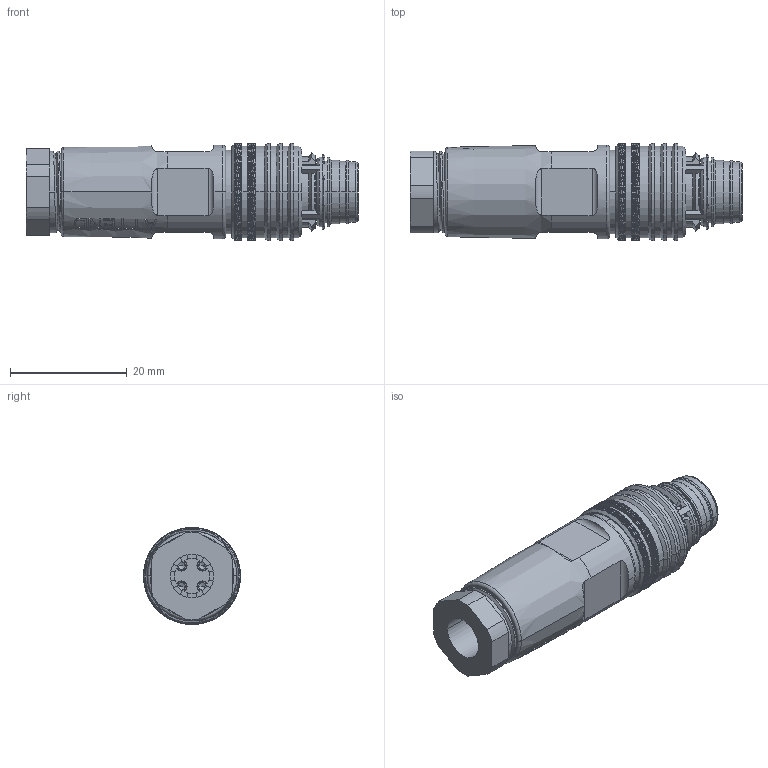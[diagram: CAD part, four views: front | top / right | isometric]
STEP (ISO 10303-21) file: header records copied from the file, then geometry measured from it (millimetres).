
FILE_DESCRIPTION((''),'2;1');
FILE_NAME('216D-04MF2_C_1_ASM','2026-04-27T',('fros.liao'),(''),'CREO PARAMETRIC BY PTC INC, 2018360','CREO PARAMETRIC BY PTC INC, 2018360','');
FILE_SCHEMA(('CONFIG_CONTROL_DESIGN'));
Products named in the file (17): SHIELD_NUT_1; PLASTIC_STRAPS_1; RUBBER_STRAPS_1; BACK_PLUG_1; BODY_1; ORING_PUSHPULL_1; THREAD_SLEEVE_ASM_2_ASM; BASE_1_1_1_1; HSG_1_1_1_1; PIN_1_1_1_1; LINK_1_1_1_1; LOCK_1_1_1_1; OUTSHELL_1_1_1_1; LOCK1_1_1_1_1; 216D-04MO2_C_1_ASM_1_ASM_1_ASM; 216D-04MO2_C_1_ASM_1_ASM; 216D-04MF2_C_1_ASM
Assembly tree (19 placements, depth 4):
  216D-04MF2_C_1_ASM
    THREAD_SLEEVE_ASM_2_ASM
      SHIELD_NUT_1
      PLASTIC_STRAPS_1
      RUBBER_STRAPS_1
      BACK_PLUG_1
      BODY_1
      ORING_PUSHPULL_1
    216D-04MO2_C_1_ASM_1_ASM
      216D-04MO2_C_1_ASM_1_ASM_1_ASM
        BASE_1_1_1_1
        HSG_1_1_1_1
        PIN_1_1_1_1  x4
        LINK_1_1_1_1
        LOCK_1_1_1_1
        OUTSHELL_1_1_1_1
        LOCK1_1_1_1_1
Bounding box: 56.8 x 16.6 x 16.6 mm (x, y, z)
Volume: 6765 mm3; surface area: 11808.7 mm2
Topology: 16 solids, 16 shells, 2030 faces, 4797 edges, 2826 vertices
Faces by surface type: bspline 1033, cylinder 545, plane 259, cone 129, torus 56, sphere 8
Entity records: 89088 total; most frequent: CARTESIAN_POINT 52010, ORIENTED_EDGE 9190, DIRECTION 4836, EDGE_CURVE 4595, VERTEX_POINT 2712, B_SPLINE_CURVE_WITH_KNOTS 2613, EDGE_LOOP 2001, FACE_OUTER_BOUND 1943
